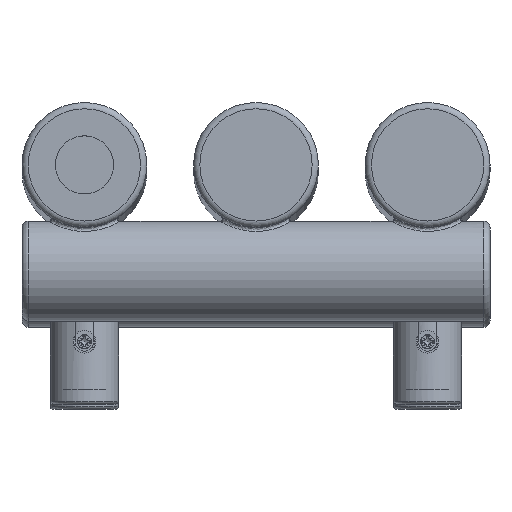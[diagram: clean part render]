
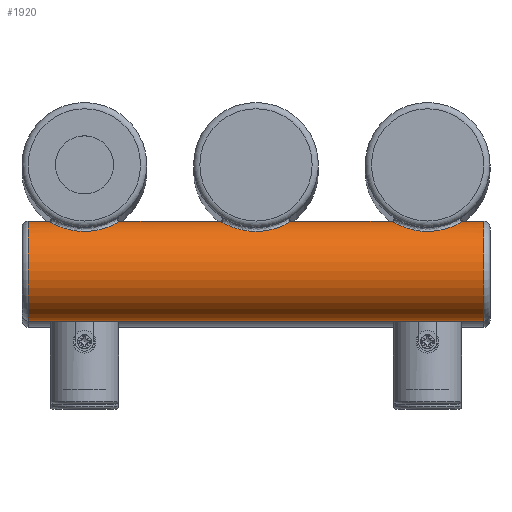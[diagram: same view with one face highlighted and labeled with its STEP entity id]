
A CAD part, top view. The second image highlights one B-rep face of the part: STEP entity #1920.
In plain terms, the highlighted cylindrical face has radius 16 mm (diameter 32 mm), a full revolution.
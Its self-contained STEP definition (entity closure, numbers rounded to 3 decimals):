
#164=FACE_BOUND('',#502,.T.);
#165=FACE_BOUND('',#503,.T.);
#166=FACE_BOUND('',#504,.T.);
#186=LINE('',#3918,#259);
#259=VECTOR('',#2407,16.);
#332=CYLINDRICAL_SURFACE('',#2101,16.);
#366=FACE_OUTER_BOUND('',#501,.T.);
#501=EDGE_LOOP('',(#1368,#1369,#1370,#1371));
#502=EDGE_LOOP('',(#1372));
#503=EDGE_LOOP('',(#1373));
#504=EDGE_LOOP('',(#1374));
#646=B_SPLINE_CURVE_WITH_KNOTS('',3,(#3895,#3896,#3897,#3898,#3899,#3900,
#3901,#3902,#3903,#3904,#3905,#3906,#3907,#3908,#3909,#3910,#3911,#3912,
#3913),.UNSPECIFIED.,.T.,.F.,(4,1,1,1,1,1,1,1,1,1,1,1,1,1,1,1,4),(0.,0.367,
0.733,1.1,1.466,1.711,1.955,
2.199,2.444,2.933,3.177,3.421,
3.666,3.91,4.399,4.765,5.132),
 .UNSPECIFIED.);
#647=B_SPLINE_CURVE_WITH_KNOTS('',3,(#3921,#3922,#3923,#3924,#3925,#3926,
#3927,#3928,#3929,#3930,#3931,#3932,#3933,#3934,#3935,#3936,#3937,#3938,
#3939,#3940,#3941),.UNSPECIFIED.,.T.,.F.,(4,1,1,1,1,1,1,1,1,1,1,1,1,1,1,
1,1,1,4),(0.,0.367,0.733,0.916,1.1,
1.466,1.711,1.955,2.199,2.444,
2.688,2.933,3.177,3.421,3.666,
3.91,4.399,4.765,5.132),
 .UNSPECIFIED.);
#648=B_SPLINE_CURVE_WITH_KNOTS('',3,(#3943,#3944,#3945,#3946,#3947,#3948,
#3949,#3950,#3951,#3952,#3953,#3954,#3955,#3956,#3957,#3958,#3959,#3960,
#3961,#3962,#3963),.UNSPECIFIED.,.T.,.F.,(4,1,1,1,1,1,1,1,1,1,1,1,1,1,1,
1,1,1,4),(0.,0.367,0.733,0.916,1.1,
1.466,1.711,1.955,2.199,2.444,
2.688,2.933,3.177,3.421,3.666,
3.91,4.399,4.765,5.132),
 .UNSPECIFIED.);
#697=CIRCLE('',#2102,16.);
#698=CIRCLE('',#2103,16.);
#851=VERTEX_POINT('',#3893);
#852=VERTEX_POINT('',#3915);
#853=VERTEX_POINT('',#3917);
#854=VERTEX_POINT('',#3920);
#855=VERTEX_POINT('',#3942);
#1059=EDGE_CURVE('',#851,#851,#646,.T.);
#1060=EDGE_CURVE('',#852,#852,#697,.T.);
#1061=EDGE_CURVE('',#852,#853,#186,.T.);
#1062=EDGE_CURVE('',#853,#853,#698,.T.);
#1063=EDGE_CURVE('',#854,#854,#647,.T.);
#1064=EDGE_CURVE('',#855,#855,#648,.T.);
#1368=ORIENTED_EDGE('',*,*,#1060,.F.);
#1369=ORIENTED_EDGE('',*,*,#1061,.T.);
#1370=ORIENTED_EDGE('',*,*,#1062,.F.);
#1371=ORIENTED_EDGE('',*,*,#1061,.F.);
#1372=ORIENTED_EDGE('',*,*,#1063,.F.);
#1373=ORIENTED_EDGE('',*,*,#1064,.F.);
#1374=ORIENTED_EDGE('',*,*,#1059,.F.);
#1920=ADVANCED_FACE('',(#366,#164,#165,#166),#332,.T.);
#2101=AXIS2_PLACEMENT_3D('',#3914,#2403,#2404);
#2102=AXIS2_PLACEMENT_3D('',#3916,#2405,#2406);
#2103=AXIS2_PLACEMENT_3D('',#3919,#2408,#2409);
#2403=DIRECTION('center_axis',(-1.,0.,0.));
#2404=DIRECTION('ref_axis',(0.,0.,1.));
#2405=DIRECTION('center_axis',(-1.,0.,0.));
#2406=DIRECTION('ref_axis',(0.,0.,1.));
#2407=DIRECTION('',(1.,0.,0.));
#2408=DIRECTION('center_axis',(1.,0.,0.));
#2409=DIRECTION('ref_axis',(0.,0.,1.));
#3893=CARTESIAN_POINT('',(-110.,-21.257,1169.676));
#3895=CARTESIAN_POINT('Ctrl Pts',(-110.,-21.257,1169.676));
#3896=CARTESIAN_POINT('Ctrl Pts',(-108.333,-21.257,1169.676));
#3897=CARTESIAN_POINT('Ctrl Pts',(-104.996,-20.861,1169.183));
#3898=CARTESIAN_POINT('Ctrl Pts',(-100.824,-19.321,1166.735));
#3899=CARTESIAN_POINT('Ctrl Pts',(-98.535,-17.944,1162.489));
#3900=CARTESIAN_POINT('Ctrl Pts',(-98.541,-17.949,1158.065));
#3901=CARTESIAN_POINT('Ctrl Pts',(-100.014,-18.832,1154.661));
#3902=CARTESIAN_POINT('Ctrl Pts',(-102.203,-19.862,1152.415));
#3903=CARTESIAN_POINT('Ctrl Pts',(-105.073,-20.765,1150.975));
#3904=CARTESIAN_POINT('Ctrl Pts',(-109.399,-21.459,1150.075));
#3905=CARTESIAN_POINT('Ctrl Pts',(-113.971,-21.078,1150.504));
#3906=CARTESIAN_POINT('Ctrl Pts',(-117.798,-19.859,1152.414));
#3907=CARTESIAN_POINT('Ctrl Pts',(-119.989,-18.831,1154.665));
#3908=CARTESIAN_POINT('Ctrl Pts',(-121.247,-18.084,1157.578));
#3909=CARTESIAN_POINT('Ctrl Pts',(-121.602,-17.836,1161.907));
#3910=CARTESIAN_POINT('Ctrl Pts',(-119.645,-19.134,1166.468));
#3911=CARTESIAN_POINT('Ctrl Pts',(-114.999,-20.872,1169.179));
#3912=CARTESIAN_POINT('Ctrl Pts',(-111.667,-21.257,1169.676));
#3913=CARTESIAN_POINT('Ctrl Pts',(-110.,-21.257,1169.676));
#3914=CARTESIAN_POINT('Origin',(20.,-34.,1160.));
#3915=CARTESIAN_POINT('',(-128.,-34.,1144.));
#3916=CARTESIAN_POINT('Origin',(-128.,-34.,1160.));
#3917=CARTESIAN_POINT('',(18.,-34.,1144.));
#3918=CARTESIAN_POINT('',(20.,-34.,1144.));
#3919=CARTESIAN_POINT('Origin',(18.,-34.,1160.));
#3920=CARTESIAN_POINT('',(-55.,-21.257,1169.676));
#3921=CARTESIAN_POINT('Ctrl Pts',(-55.,-21.257,1169.676));
#3922=CARTESIAN_POINT('Ctrl Pts',(-53.333,-21.257,1169.676));
#3923=CARTESIAN_POINT('Ctrl Pts',(-49.992,-20.858,1169.186));
#3924=CARTESIAN_POINT('Ctrl Pts',(-46.526,-19.582,1167.138));
#3925=CARTESIAN_POINT('Ctrl Pts',(-44.675,-18.63,1164.615));
#3926=CARTESIAN_POINT('Ctrl Pts',(-43.539,-17.949,1161.659));
#3927=CARTESIAN_POINT('Ctrl Pts',(-43.538,-17.947,1158.067));
#3928=CARTESIAN_POINT('Ctrl Pts',(-45.013,-18.833,1154.662));
#3929=CARTESIAN_POINT('Ctrl Pts',(-47.203,-19.86,1152.415));
#3930=CARTESIAN_POINT('Ctrl Pts',(-50.072,-20.768,1150.978));
#3931=CARTESIAN_POINT('Ctrl Pts',(-53.318,-21.278,1150.296));
#3932=CARTESIAN_POINT('Ctrl Pts',(-56.682,-21.279,1150.296));
#3933=CARTESIAN_POINT('Ctrl Pts',(-59.929,-20.768,1150.978));
#3934=CARTESIAN_POINT('Ctrl Pts',(-62.797,-19.862,1152.416));
#3935=CARTESIAN_POINT('Ctrl Pts',(-64.989,-18.829,1154.664));
#3936=CARTESIAN_POINT('Ctrl Pts',(-66.247,-18.084,1157.578));
#3937=CARTESIAN_POINT('Ctrl Pts',(-66.602,-17.835,1161.907));
#3938=CARTESIAN_POINT('Ctrl Pts',(-64.645,-19.134,1166.468));
#3939=CARTESIAN_POINT('Ctrl Pts',(-59.999,-20.872,1169.179));
#3940=CARTESIAN_POINT('Ctrl Pts',(-56.667,-21.257,1169.676));
#3941=CARTESIAN_POINT('Ctrl Pts',(-55.,-21.257,1169.676));
#3942=CARTESIAN_POINT('',(0.,-21.257,1169.676));
#3943=CARTESIAN_POINT('Ctrl Pts',(0.,-21.257,
1169.676));
#3944=CARTESIAN_POINT('Ctrl Pts',(1.667,-21.257,1169.676));
#3945=CARTESIAN_POINT('Ctrl Pts',(5.008,-20.858,1169.186));
#3946=CARTESIAN_POINT('Ctrl Pts',(8.474,-19.582,1167.138));
#3947=CARTESIAN_POINT('Ctrl Pts',(10.325,-18.63,1164.615));
#3948=CARTESIAN_POINT('Ctrl Pts',(11.461,-17.949,1161.659));
#3949=CARTESIAN_POINT('Ctrl Pts',(11.462,-17.947,1158.066));
#3950=CARTESIAN_POINT('Ctrl Pts',(9.987,-18.833,1154.662));
#3951=CARTESIAN_POINT('Ctrl Pts',(7.797,-19.86,1152.415));
#3952=CARTESIAN_POINT('Ctrl Pts',(4.928,-20.768,1150.978));
#3953=CARTESIAN_POINT('Ctrl Pts',(1.682,-21.278,1150.296));
#3954=CARTESIAN_POINT('Ctrl Pts',(-1.682,-21.279,1150.296));
#3955=CARTESIAN_POINT('Ctrl Pts',(-4.929,-20.768,1150.978));
#3956=CARTESIAN_POINT('Ctrl Pts',(-7.797,-19.862,1152.415));
#3957=CARTESIAN_POINT('Ctrl Pts',(-9.989,-18.829,1154.664));
#3958=CARTESIAN_POINT('Ctrl Pts',(-11.247,-18.084,1157.578));
#3959=CARTESIAN_POINT('Ctrl Pts',(-11.602,-17.835,1161.907));
#3960=CARTESIAN_POINT('Ctrl Pts',(-9.645,-19.134,1166.468));
#3961=CARTESIAN_POINT('Ctrl Pts',(-4.999,-20.872,1169.179));
#3962=CARTESIAN_POINT('Ctrl Pts',(-1.667,-21.257,1169.676));
#3963=CARTESIAN_POINT('Ctrl Pts',(0.,-21.257,
1169.676));
